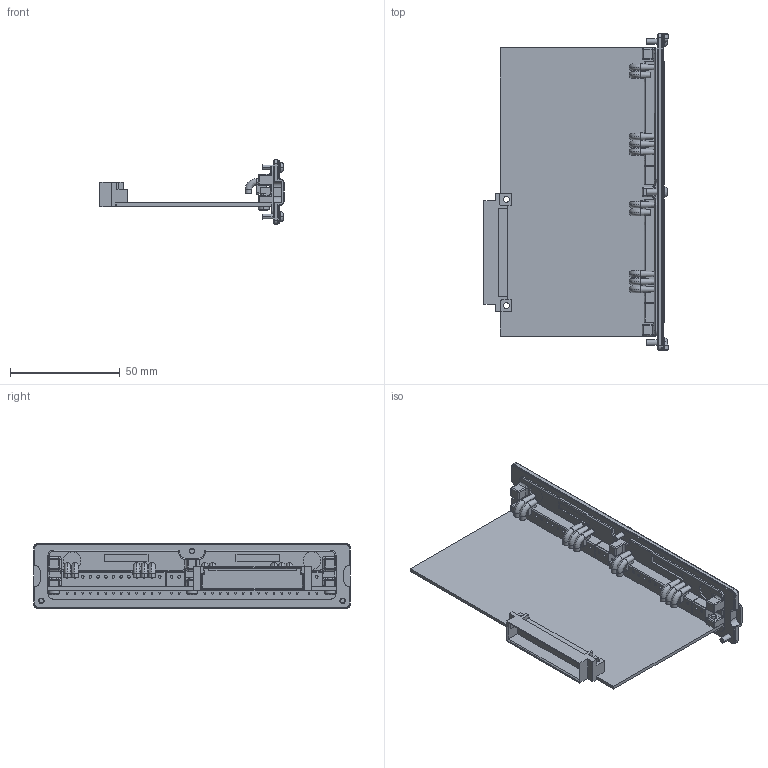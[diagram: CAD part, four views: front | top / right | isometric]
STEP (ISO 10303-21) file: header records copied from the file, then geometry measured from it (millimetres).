
FILE_DESCRIPTION((''),'2;1');
FILE_NAME('1_PX460_STEP_SW0001','2018-10-08T',('mellertr'),(''),'CREO PARAMETRIC BY PTC INC, 2017480','CREO PARAMETRIC BY PTC INC, 2017480','');
FILE_SCHEMA(('CONFIG_CONTROL_DESIGN'));
Products named in the file (1): 1_PX460_STEP_SW0001
Bounding box: 83.69 x 144 x 29.5 mm (x, y, z)
Volume: 34290.1 mm3; surface area: 41038.5 mm2
Topology: 1 solids, 2 shells, 2816 faces, 7222 edges, 4624 vertices
Faces by surface type: bspline 2816
Entity records: 130374 total; most frequent: CARTESIAN_POINT 44092, ORIENTED_EDGE 14436, DIRECTION 8500, EDGE_CURVE 7218, VECTOR 5380, LINE 5380, VERTEX_POINT 4624, FILL_AREA_STYLE_COLOUR 4075
